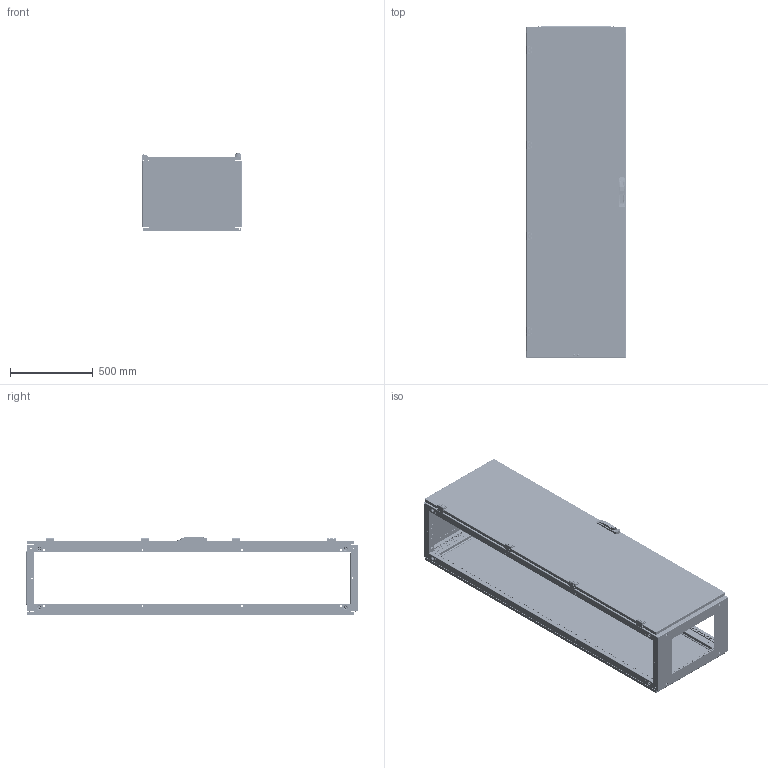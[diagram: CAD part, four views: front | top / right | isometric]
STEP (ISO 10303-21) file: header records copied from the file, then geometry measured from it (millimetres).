
FILE_DESCRIPTION (( 'STEP AP214' ), '1' );
FILE_NAME ('QA200604.step', '2011-08-09T14:16:55', ( 'Radek Veselý' ), ( 'Siemens and Partners' ), 'SwSTEP 2.0', 'SolidWorks 2006303', '' );
FILE_SCHEMA (( 'AUTOMOTIVE_DESIGN' ));
Length unit declared in the file: millimetre
Products named in the file (1): QA200604
Bounding box: 600 x 2004.5 x 476 mm (x, y, z)
Volume: 8916132 mm3; surface area: 10274454.1 mm2
Topology: 94 solids, 94 shells, 6567 faces, 17808 edges, 11434 vertices
Faces by surface type: plane 3528, cylinder 2487, cone 280, torus 164, sphere 60, bspline 48
Entity records: 285920 total; most frequent: CARTESIAN_POINT 38272, DIRECTION 36152, ORIENTED_EDGE 35248, EDGE_CURVE 17624, AXIS2_PLACEMENT_3D 12205, VECTOR 11742, LINE 11742, VERTEX_POINT 11418
